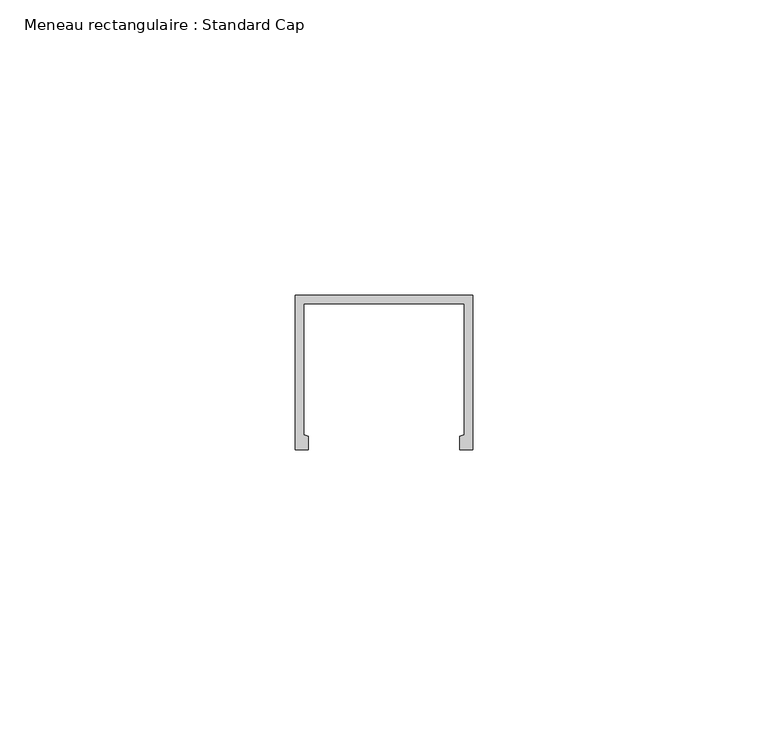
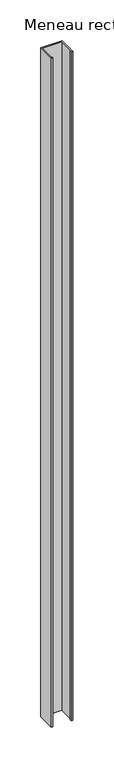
"""IFC4 building model written with IfcOpenShell, lengths in millimetres: member geometry, Meneau rectangulaire : Standard Cap."""

from ifc_helpers import new_model, si_unit, frame, origin, place, context, project, spatial, polyline, outline, extrude, source, transform, mapped, element, save


def meneau_rectangulaire_standard_cap_3ef7bdc3(model_context):
    return source(origin(), model_context, "Body", "SweptSolid", [
        extrude(outline(polyline([(-30.0, 32.1007192), (0.0, 32.1007192), (0.0, 6.0), (-2.149007, 6.0), (-2.149007, 8.2419727), (-1.4, 8.4826662), (-1.4, 30.7007192), (-28.6, 30.7007192), (-28.6, 8.4826662), (-27.850993, 8.2419727), (-27.850993, 6.0), (-30.0, 6.0), (-30.0, 32.1007192)])), frame((0.0, 0.0, -1000.0), z_axis=(0.0, 0.0, 1.0), x_axis=(1.0, 0.0, 0.0)), (0.0, 0.0, 1.0), 1000.0),
    ])


if __name__ == "__main__":
    model = new_model("IFC4")
    model_context = context("Model", 3, world=origin())
    ifc_project = project(units=[si_unit("LENGTHUNIT", "METRE", prefix="MILLI")], contexts=[model_context])
    site = spatial("IfcSite", under=ifc_project)
    building = spatial("IfcBuilding", under=site)
    placement = place(None, origin())
    meneau_rectangulaire_standard_cap_shape = meneau_rectangulaire_standard_cap_3ef7bdc3(model_context)
    element("IfcMember", 1, ObjectType="Meneau rectangulaire : Standard Cap", at=placement, inside=building, context=model_context, shape_type="MappedRepresentation", body=[
        mapped(meneau_rectangulaire_standard_cap_shape, transform((0.0, 0.0, 0.0), x_axis=(1.0, 0.0, 0.0), y_axis=(0.0, 1.0, 0.0), z_axis=(0.0, 0.0, 1.0))),
    ])
    save(model, "model.ifc")
